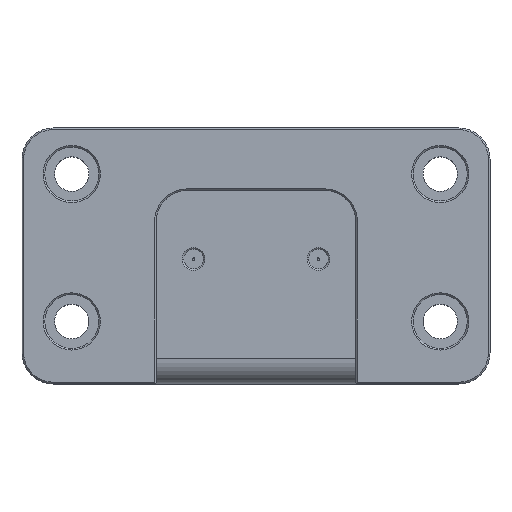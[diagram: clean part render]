
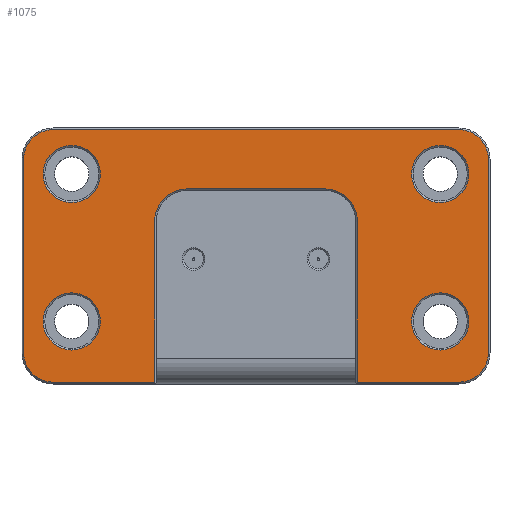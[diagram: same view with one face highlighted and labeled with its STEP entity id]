
A CAD part, top view. The second image highlights one B-rep face of the part: STEP entity #1075.
In plain terms, the highlighted planar face has unit normal (0, 0, 1).
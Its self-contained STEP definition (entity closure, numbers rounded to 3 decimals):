
#19=FACE_BOUND('',#177,.T.);
#20=FACE_BOUND('',#178,.T.);
#21=FACE_BOUND('',#179,.T.);
#22=FACE_BOUND('',#180,.T.);
#61=PLANE('',#1180);
#103=FACE_OUTER_BOUND('',#176,.T.);
#176=EDGE_LOOP('',(#804,#805,#806,#807,#808,#809,#810,#811,#812,#813,#814,
#815,#816,#817));
#177=EDGE_LOOP('',(#818));
#178=EDGE_LOOP('',(#819));
#179=EDGE_LOOP('',(#820));
#180=EDGE_LOOP('',(#821));
#256=LINE('',#1687,#349);
#260=LINE('',#1699,#353);
#265=LINE('',#1712,#358);
#269=LINE('',#1724,#362);
#272=LINE('',#1735,#365);
#275=LINE('',#1741,#368);
#276=LINE('',#1745,#369);
#277=LINE('',#1748,#370);
#349=VECTOR('',#1332,10.);
#353=VECTOR('',#1344,10.);
#358=VECTOR('',#1357,10.);
#362=VECTOR('',#1369,10.);
#365=VECTOR('',#1380,10.);
#368=VECTOR('',#1385,10.);
#369=VECTOR('',#1388,10.);
#370=VECTOR('',#1391,10.);
#442=CIRCLE('',#1166,6.03);
#444=CIRCLE('',#1170,6.03);
#446=CIRCLE('',#1174,6.03);
#448=CIRCLE('',#1178,6.03);
#449=CIRCLE('',#1181,6.67);
#450=CIRCLE('',#1182,6.67);
#451=CIRCLE('',#1183,5.819);
#452=CIRCLE('',#1184,5.819);
#453=CIRCLE('',#1185,5.819);
#454=CIRCLE('',#1186,5.819);
#506=VERTEX_POINT('',#1684);
#507=VERTEX_POINT('',#1686);
#509=VERTEX_POINT('',#1692);
#511=VERTEX_POINT('',#1697);
#513=VERTEX_POINT('',#1704);
#515=VERTEX_POINT('',#1710);
#517=VERTEX_POINT('',#1716);
#519=VERTEX_POINT('',#1722);
#521=VERTEX_POINT('',#1728);
#523=VERTEX_POINT('',#1733);
#525=VERTEX_POINT('',#1740);
#526=VERTEX_POINT('',#1742);
#527=VERTEX_POINT('',#1744);
#528=VERTEX_POINT('',#1746);
#529=VERTEX_POINT('',#1749);
#530=VERTEX_POINT('',#1751);
#531=VERTEX_POINT('',#1753);
#532=VERTEX_POINT('',#1755);
#604=EDGE_CURVE('',#506,#507,#256,.T.);
#608=EDGE_CURVE('',#509,#506,#442,.T.);
#610=EDGE_CURVE('',#511,#509,#260,.T.);
#614=EDGE_CURVE('',#513,#511,#444,.T.);
#617=EDGE_CURVE('',#515,#513,#265,.T.);
#620=EDGE_CURVE('',#517,#515,#446,.T.);
#623=EDGE_CURVE('',#519,#517,#269,.T.);
#626=EDGE_CURVE('',#521,#519,#448,.T.);
#628=EDGE_CURVE('',#523,#521,#272,.T.);
#631=EDGE_CURVE('',#525,#523,#275,.T.);
#632=EDGE_CURVE('',#526,#525,#449,.T.);
#633=EDGE_CURVE('',#527,#526,#276,.T.);
#634=EDGE_CURVE('',#528,#527,#450,.T.);
#635=EDGE_CURVE('',#507,#528,#277,.T.);
#636=EDGE_CURVE('',#529,#529,#451,.T.);
#637=EDGE_CURVE('',#530,#530,#452,.T.);
#638=EDGE_CURVE('',#531,#531,#453,.T.);
#639=EDGE_CURVE('',#532,#532,#454,.T.);
#804=ORIENTED_EDGE('',*,*,#604,.F.);
#805=ORIENTED_EDGE('',*,*,#608,.F.);
#806=ORIENTED_EDGE('',*,*,#610,.F.);
#807=ORIENTED_EDGE('',*,*,#614,.F.);
#808=ORIENTED_EDGE('',*,*,#617,.F.);
#809=ORIENTED_EDGE('',*,*,#620,.F.);
#810=ORIENTED_EDGE('',*,*,#623,.F.);
#811=ORIENTED_EDGE('',*,*,#626,.F.);
#812=ORIENTED_EDGE('',*,*,#628,.F.);
#813=ORIENTED_EDGE('',*,*,#631,.F.);
#814=ORIENTED_EDGE('',*,*,#632,.F.);
#815=ORIENTED_EDGE('',*,*,#633,.F.);
#816=ORIENTED_EDGE('',*,*,#634,.F.);
#817=ORIENTED_EDGE('',*,*,#635,.F.);
#818=ORIENTED_EDGE('',*,*,#636,.F.);
#819=ORIENTED_EDGE('',*,*,#637,.F.);
#820=ORIENTED_EDGE('',*,*,#638,.F.);
#821=ORIENTED_EDGE('',*,*,#639,.F.);
#1075=ADVANCED_FACE('',(#103,#19,#20,#21,#22),#61,.T.);
#1166=AXIS2_PLACEMENT_3D('',#1694,#1339,#1340);
#1170=AXIS2_PLACEMENT_3D('',#1706,#1351,#1352);
#1174=AXIS2_PLACEMENT_3D('',#1718,#1363,#1364);
#1178=AXIS2_PLACEMENT_3D('',#1730,#1375,#1376);
#1180=AXIS2_PLACEMENT_3D('',#1739,#1383,#1384);
#1181=AXIS2_PLACEMENT_3D('',#1743,#1386,#1387);
#1182=AXIS2_PLACEMENT_3D('',#1747,#1389,#1390);
#1183=AXIS2_PLACEMENT_3D('',#1750,#1392,#1393);
#1184=AXIS2_PLACEMENT_3D('',#1752,#1394,#1395);
#1185=AXIS2_PLACEMENT_3D('',#1754,#1396,#1397);
#1186=AXIS2_PLACEMENT_3D('',#1756,#1398,#1399);
#1332=DIRECTION('',(-1.,0.,0.));
#1339=DIRECTION('center_axis',(0.,0.,-1.));
#1340=DIRECTION('ref_axis',(0.707,-0.707,0.));
#1344=DIRECTION('',(0.,-1.,0.));
#1351=DIRECTION('center_axis',(0.,0.,-1.));
#1352=DIRECTION('ref_axis',(0.707,0.707,0.));
#1357=DIRECTION('',(1.,0.,0.));
#1363=DIRECTION('center_axis',(0.,0.,-1.));
#1364=DIRECTION('ref_axis',(-0.707,0.707,0.));
#1369=DIRECTION('',(0.,1.,0.));
#1375=DIRECTION('center_axis',(0.,0.,-1.));
#1376=DIRECTION('ref_axis',(-0.707,-0.707,0.));
#1380=DIRECTION('',(-1.,0.,0.));
#1383=DIRECTION('center_axis',(0.,0.,1.));
#1384=DIRECTION('ref_axis',(0.,-1.,0.));
#1385=DIRECTION('',(0.,-1.,0.));
#1386=DIRECTION('center_axis',(0.,0.,1.));
#1387=DIRECTION('ref_axis',(-0.707,0.707,0.));
#1388=DIRECTION('',(-1.,0.,0.));
#1389=DIRECTION('center_axis',(0.,0.,1.));
#1390=DIRECTION('ref_axis',(0.707,0.707,0.));
#1391=DIRECTION('',(0.,1.,0.));
#1392=DIRECTION('center_axis',(0.,0.,1.));
#1393=DIRECTION('ref_axis',(0.,-1.,0.));
#1394=DIRECTION('center_axis',(0.,0.,1.));
#1395=DIRECTION('ref_axis',(0.,-1.,0.));
#1396=DIRECTION('center_axis',(0.,0.,1.));
#1397=DIRECTION('ref_axis',(0.,-1.,0.));
#1398=DIRECTION('center_axis',(0.,0.,1.));
#1399=DIRECTION('ref_axis',(0.,-1.,0.));
#1684=CARTESIAN_POINT('',(119.594,-51.75,20.));
#1686=CARTESIAN_POINT('',(98.959,-51.75,20.));
#1687=CARTESIAN_POINT('',(54.506,-51.75,20.));
#1692=CARTESIAN_POINT('',(125.624,-45.72,20.));
#1694=CARTESIAN_POINT('Origin',(119.594,-45.72,20.));
#1697=CARTESIAN_POINT('',(125.624,-6.35,20.));
#1699=CARTESIAN_POINT('',(125.624,-43.815,20.));
#1704=CARTESIAN_POINT('',(119.594,-0.32,20.));
#1706=CARTESIAN_POINT('Origin',(119.594,-6.35,20.));
#1710=CARTESIAN_POINT('',(37.044,-0.32,20.));
#1712=CARTESIAN_POINT('',(78.319,-0.32,20.));
#1716=CARTESIAN_POINT('',(31.014,-6.35,20.));
#1718=CARTESIAN_POINT('Origin',(37.044,-6.35,20.));
#1722=CARTESIAN_POINT('',(31.014,-45.72,20.));
#1724=CARTESIAN_POINT('',(31.014,-27.305,20.));
#1728=CARTESIAN_POINT('',(37.044,-51.75,20.));
#1730=CARTESIAN_POINT('Origin',(37.044,-45.72,20.));
#1733=CARTESIAN_POINT('',(57.679,-51.75,20.));
#1735=CARTESIAN_POINT('',(54.506,-51.75,20.));
#1739=CARTESIAN_POINT('Origin',(78.319,-35.56,20.));
#1740=CARTESIAN_POINT('',(57.679,-19.05,20.));
#1741=CARTESIAN_POINT('',(57.679,-43.815,20.));
#1742=CARTESIAN_POINT('',(64.349,-12.38,20.));
#1743=CARTESIAN_POINT('Origin',(64.349,-19.05,20.));
#1744=CARTESIAN_POINT('',(92.289,-12.38,20.));
#1745=CARTESIAN_POINT('',(78.319,-12.38,20.));
#1746=CARTESIAN_POINT('',(98.959,-19.05,20.));
#1747=CARTESIAN_POINT('Origin',(92.289,-19.05,20.));
#1748=CARTESIAN_POINT('',(98.959,-27.305,20.));
#1749=CARTESIAN_POINT('',(115.819,-3.551,20.));
#1750=CARTESIAN_POINT('Origin',(115.819,-9.37,20.));
#1751=CARTESIAN_POINT('',(40.819,-33.551,20.));
#1752=CARTESIAN_POINT('Origin',(40.819,-39.37,20.));
#1753=CARTESIAN_POINT('',(40.819,-3.551,20.));
#1754=CARTESIAN_POINT('Origin',(40.819,-9.37,20.));
#1755=CARTESIAN_POINT('',(115.819,-33.551,20.));
#1756=CARTESIAN_POINT('Origin',(115.819,-39.37,20.));
